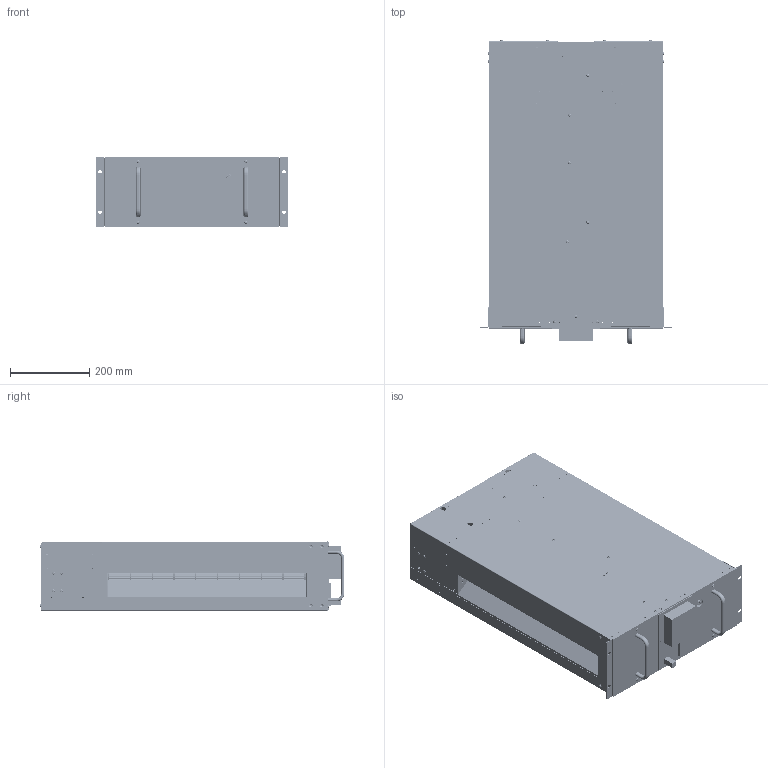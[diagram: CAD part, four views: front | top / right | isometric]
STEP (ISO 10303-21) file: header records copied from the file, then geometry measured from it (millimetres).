
FILE_DESCRIPTION(('CATIA V5 STEP Exchange'),'2;1');
FILE_NAME('C:\Users\sebas\cernbox\WINDOWS\Desktop\APPENDIX\REVISED LONG ASSEMBLY.stp','2026-06-16T11:53:57+00:00',('none'),('none'),'CATIA Version 5-6 Release 2017 SP6 HF16','CATIA V5 STEP AP203','none');
FILE_SCHEMA(('CONFIG_CONTROL_DESIGN'));
Products named in the file (7): Product main; Assem4; Assem5; Product1; turbine with spacers assembly; Symmetry of Product1; Symmetry of turbine with spacers assembly
Assembly tree (185 placements, depth 4):
  Product main
    #57  x2
    #5067  x2
    #5879  x2
    #6373
    #7774
    #8869
    #9676
    #10362
    #11200
    #13448  x42
    #14454
    #14558
    #20803  x2
    #21953
    #22881
    #24283
    #28007
    #31416
    #34061
    #36812
    #40177  x8
    #41966
    #43917
    #46243
    #48434  x2
    #49207  x2
    #50774  x2
    #64752
    #66378
    #67439  x2
    #68271
    #72304  x2
    #72904  x2
    Assem4
      #73362
      #75507
    Assem5
      #76109
      #151992
    Product1
      #154776
      #162476
      turbine with spacers assembly
        #162659
        #201324
        #201739
        #202518
        #202670
        #203230
      #203656
      #205365
      #205892
      #207139
      #208161
      #208790
      #211128  x3
      #213466
      #217141
      #221517  x2
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Bounding box: 482.5 x 767.7 x 177 mm (x, y, z)
Volume: 10398706.1 mm3; surface area: 5211522.7 mm2
Topology: 179 solids, 181 shells, 12149 faces, 34417 edges, 22768 vertices
Faces by surface type: plane 5778, cylinder 5740, torus 234, cone 223, bspline 102, sphere 68, revolution 4
Entity records: 296162 total; most frequent: CARTESIAN_POINT 61346, ORIENTED_EDGE 55246, DIRECTION 34070, EDGE_CURVE 27623, VERTEX_POINT 18341, VECTOR 16914, LINE 16914, AXIS2_PLACEMENT_3D 13445
